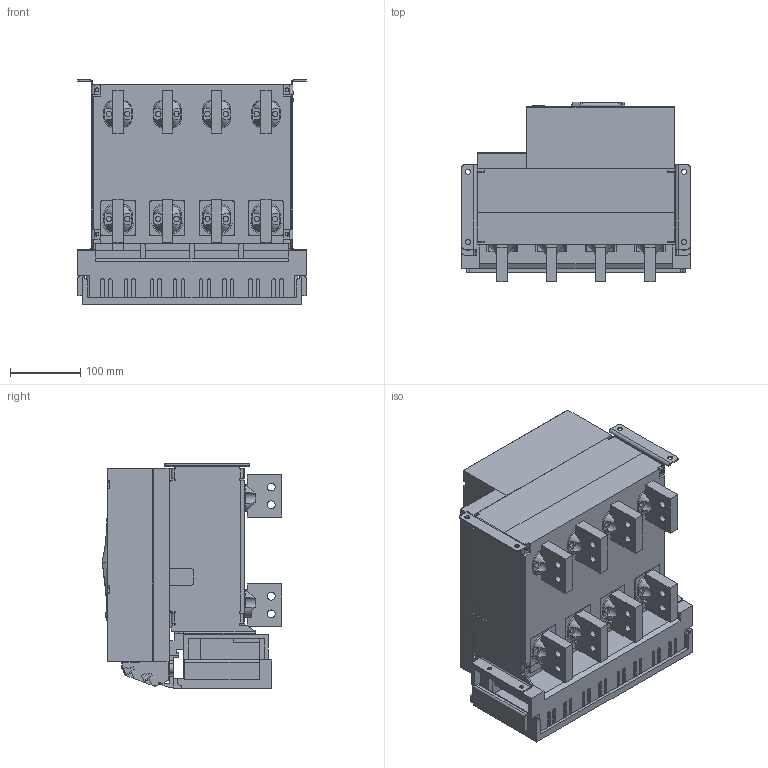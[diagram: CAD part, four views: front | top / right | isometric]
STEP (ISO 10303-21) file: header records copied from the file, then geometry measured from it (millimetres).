
FILE_DESCRIPTION((''),'2;1');
FILE_NAME('NA8G-1600-1250-F-4P-V_ASM','2019-06-03T14:10:11',('lcc'),(''),'CREO PARAMETRIC BY PTC INC, 2018020','CREO PARAMETRIC BY PTC INC, 2018020','');
FILE_SCHEMA(('CONFIG_CONTROL_DESIGN','SHAPE_APPEARANCE_LAYERS_GROUPS'));
Products named in the file (19): 1600-JIZUO-4P; 1600-DIBAN-4P; 8-050-245; 8-050-246; 8-300-162-2; 8-005-238; 8-300-163; 8-015-020; 8ZTD-064-138; 8ZTD-024-689; 8ZTD-860-511; 1600-DUANZI-CTS_ASM; 8-253-348; 8-253-349; 5-235-147; 8-253-309; 8ZTD-580-187-1; 8-211-087; NA8G-1600-1250-F-4P-V_ASM
Assembly tree (41 placements, depth 3):
  NA8G-1600-1250-F-4P-V_ASM
    1600-JIZUO-4P
    1600-DIBAN-4P
    8-050-245
    8-050-246
    8-300-162-2
    8-005-238
    8-300-163
    8-015-020
    1600-DUANZI-CTS_ASM
      8ZTD-064-138
      8ZTD-024-689  x14
      8ZTD-860-511
    8-253-348
    8-253-349
    5-235-147
    8-253-309
    8ZTD-580-187-1  x8
    8-211-087  x4
Bounding box: 324 x 255 x 318.5 mm (x, y, z)
Volume: 9052201.9 mm3; surface area: 1664538.9 mm2
Topology: 40 solids, 59 shells, 5320 faces, 14790 edges, 9731 vertices
Faces by surface type: plane 4263, cylinder 986, cone 32, torus 18, bspline 10, sphere 10, extrusion 1
Entity records: 128807 total; most frequent: CARTESIAN_POINT 18444, ORIENTED_EDGE 16990, DIRECTION 16164, PRESENTATION_STYLE_ASSIGNMENT 9073, STYLED_ITEM 9058, CURVE_STYLE 8498, EDGE_CURVE 8498, VECTOR 6948
